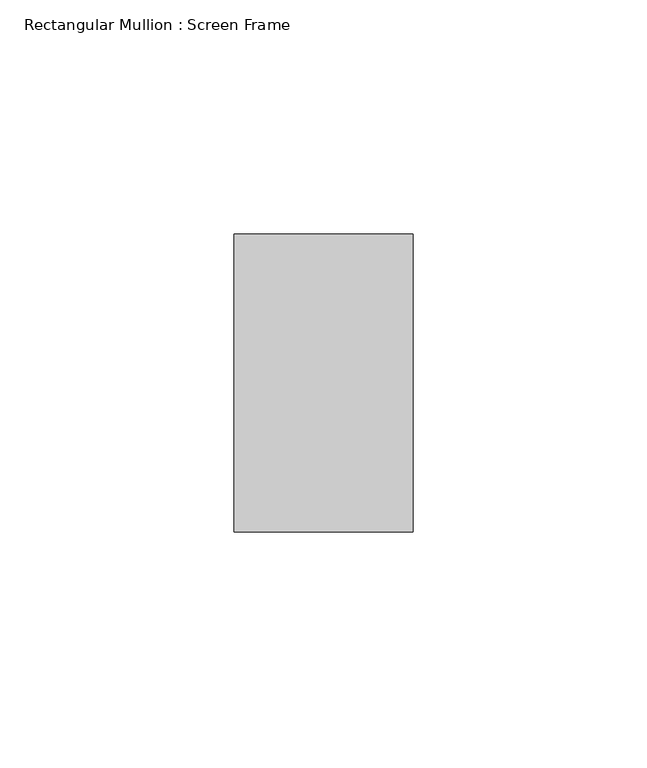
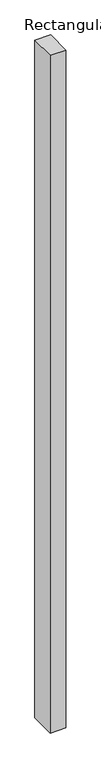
"""IFC4 building model written with IfcOpenShell, lengths in millimetres: member geometry, Rectangular Mullion : Screen Frame."""

import ifcopenshell
import ifcopenshell.guid

model = None  # the IFC model being written
_history = None  # IfcOwnerHistory: only IFC2X3 demands one
_inside = {}  # id of a spatial element -> (the spatial element, [elements in it])
_under = {}  # id of a project, library or spatial element -> (it, [spatial elements below it])
_declared = {}  # id of a project -> (the project, [libraries it declares])
_typed = {}  # id of a type object -> (the type object, [elements of that type])
_made_of = {}  # id of a material, layer set ... -> (it, [elements and type objects made of it])


def new_model(schema):
    """Start an empty IFC model of exactly this schema.

    Asked for "IFC4X3", IfcOpenShell would pick the latest addendum, in which some entities
    have other attributes; the version numbers below select the first issue.
    IFC2X3 requires an IfcOwnerHistory on every rooted entity: one is made here for all.
    """
    global model, _history
    if schema == "IFC4X3":
        model = ifcopenshell.file(schema_version=(4, 3, 0, 0))
    else:
        model = ifcopenshell.file(schema=schema)
    _inside.clear()
    _under.clear()
    _declared.clear()
    _typed.clear()
    _made_of.clear()
    _history = None
    if model.schema == "IFC2X3":
        org = make("IfcOrganization", Name="unknown")
        user = make(
            "IfcPersonAndOrganization",
            ThePerson=make("IfcPerson", FamilyName="unknown"),
            TheOrganization=org,
        )
        app = make(
            "IfcApplication",
            ApplicationDeveloper=org,
            Version="unknown",
            ApplicationFullName="unknown",
            ApplicationIdentifier="unknown",
        )
        _history = make(
            "IfcOwnerHistory",
            OwningUser=user,
            OwningApplication=app,
            ChangeAction="ADDED",
            CreationDate=0,
        )
    return model


def make(cls, **values):
    """One entity of the class cls with the attributes given. An attribute that is None is left unset."""
    return model.create_entity(
        cls, **{name: value for name, value in values.items() if value is not None}
    )


def rooted(cls, **values):
    """An entity with a GlobalId (a new one), such as an element, a storey or a relation."""
    return make(cls, GlobalId=ifcopenshell.guid.new(), OwnerHistory=_history, **values)


def si_unit(unit_type, name, prefix=None):
    """IfcSIUnit, for example si_unit("LENGTHUNIT", "METRE", prefix="MILLI")."""
    return make("IfcSIUnit", UnitType=unit_type, Prefix=prefix, Name=name)


def assignment(units):
    """IfcUnitAssignment: the units of a project."""
    return None if units is None else make("IfcUnitAssignment", Units=units)


def point(xyz):
    """IfcCartesianPoint."""
    return None if xyz is None else make("IfcCartesianPoint", Coordinates=xyz)


def direction(xyz):
    """IfcDirection."""
    return None if xyz is None else make("IfcDirection", DirectionRatios=xyz)


def frame(location, z_axis=None, x_axis=None):
    """IfcAxis2Placement3D, a coordinate frame: its origin and axes. An axis left out is left unset."""
    return make(
        "IfcAxis2Placement3D",
        Location=point(location),
        Axis=direction(z_axis),
        RefDirection=direction(x_axis),
    )


def origin():
    """The frame at (0, 0, 0) with its axes left unset."""
    return frame((0.0, 0.0, 0.0))


def place(relative_to, where):
    """IfcLocalPlacement: puts the frame where relative to a parent placement (None: the world)."""
    return make(
        "IfcLocalPlacement", PlacementRelTo=relative_to, RelativePlacement=where
    )


def context(
    kind, dimensions, precision=None, world=None, true_north=None, identifier=None
):
    """IfcGeometricRepresentationContext, for example the 3D "Model" context."""
    return make(
        "IfcGeometricRepresentationContext",
        ContextIdentifier=identifier,
        ContextType=kind,
        CoordinateSpaceDimension=dimensions,
        Precision=precision,
        WorldCoordinateSystem=world,
        TrueNorth=true_north,
    )


def project(units=None, contexts=None):
    """IfcProject with its units and contexts."""
    return rooted(
        "IfcProject",
        Name="project",
        RepresentationContexts=contexts,
        UnitsInContext=assignment(units),
    )


def spatial(cls, under=None, at=None, **own):
    """A site, building, storey or space (cls), placed at a placement, below another one or the project."""
    s = rooted(cls, ObjectPlacement=at, **own)
    if under is not None:
        _under.setdefault(under.id(), (under, []))[1].append(s)
    return s


def polyline(points):
    """IfcPolyline through the points."""
    return make("IfcPolyline", Points=[point(p) for p in points])


def outline(outer, holes=None, kind="AREA"):
    """IfcArbitraryClosedProfileDef: a profile drawn as a closed curve; with holes, ...WithVoids."""
    if holes is None:
        return make("IfcArbitraryClosedProfileDef", ProfileType=kind, OuterCurve=outer)
    return make(
        "IfcArbitraryProfileDefWithVoids",
        ProfileType=kind,
        OuterCurve=outer,
        InnerCurves=holes,
    )


def extrude(swept, where, along, depth):
    """IfcExtrudedAreaSolid: the profile swept, set in the frame where, extruded along a direction by depth."""
    return make(
        "IfcExtrudedAreaSolid",
        SweptArea=swept,
        Position=where,
        ExtrudedDirection=direction(along),
        Depth=depth,
    )


def shape(context_of_items, identifier, shape_type, items):
    """IfcShapeRepresentation: the items that make up one representation, for example the "Body"."""
    return make(
        "IfcShapeRepresentation",
        ContextOfItems=context_of_items,
        RepresentationIdentifier=identifier,
        RepresentationType=shape_type,
        Items=items,
    )


def source(mapping_origin, context_of_items, identifier, shape_type, items):
    """IfcRepresentationMap: a shape defined once, which mapped items show again and again."""
    return make(
        "IfcRepresentationMap",
        MappingOrigin=mapping_origin,
        MappedRepresentation=shape(context_of_items, identifier, shape_type, items),
    )


def transform(
    local_origin,
    x_axis=None,
    y_axis=None,
    z_axis=None,
    scale=None,
    scale2=None,
    scale3=None,
    uniform=True,
):
    """IfcCartesianTransformationOperator3D, or its non-uniform kind. x_axis, y_axis, z_axis: its Axis1, 2, 3."""
    if uniform:
        return make(
            "IfcCartesianTransformationOperator3D",
            Axis1=direction(x_axis),
            Axis2=direction(y_axis),
            LocalOrigin=point(local_origin),
            Scale=scale,
            Axis3=direction(z_axis),
        )
    return make(
        "IfcCartesianTransformationOperator3DnonUniform",
        Axis1=direction(x_axis),
        Axis2=direction(y_axis),
        LocalOrigin=point(local_origin),
        Scale=scale,
        Axis3=direction(z_axis),
        Scale2=scale2,
        Scale3=scale3,
    )


def mapped(mapping_source, mapping_target):
    """IfcMappedItem: shows the shape of a source again, moved by a transform."""
    return make(
        "IfcMappedItem", MappingSource=mapping_source, MappingTarget=mapping_target
    )


def made_of(thing, what):
    """Note that an element or type object is made of a material, layer set ...; save() writes the relation."""
    if what is not None:
        _made_of.setdefault(what.id(), (what, []))[1].append(thing)
    return thing


def element(
    cls,
    number,
    at=None,
    inside=None,
    cuts=None,
    type_object=None,
    material=None,
    context=None,
    identifier="Body",
    shape_type=None,
    held_by="IfcProductDefinitionShape",
    body=None,
    shapes=None,
    **own,
):
    """One element of the class cls, such as IfcWall. Its Tag is "e" and its number.

    at: its placement. inside: the storey or other place that contains it. cuts: it is an
    opening in that element (IfcRelVoidsElement). A single representation is given by context,
    identifier, shape_type and body (its items); several are given by shapes. held_by: the class
    of the entity that holds the representations. save() writes the other relations.
    """
    e = rooted(cls, Tag="e%d" % number, ObjectPlacement=at, **own)
    if body is not None:
        shapes = [shape(context, identifier, shape_type, body)]
    if shapes is not None:
        e.Representation = make(held_by, Representations=shapes)
    if inside is not None:
        _inside.setdefault(inside.id(), (inside, []))[1].append(e)
    if cuts is not None:
        rooted(
            "IfcRelVoidsElement", RelatingBuildingElement=cuts, RelatedOpeningElement=e
        )
    if type_object is not None:
        _typed.setdefault(type_object.id(), (type_object, []))[1].append(e)
    return made_of(e, material)


def aggregate(whole, parts):
    """IfcRelAggregates: a whole, such as a stair, and the parts it consists of."""
    return rooted("IfcRelAggregates", RelatingObject=whole, RelatedObjects=parts)


def save(model, path):
    """Write the relations noted so far, then the file.

    IfcRelAggregates (storeys below a building ...), IfcRelContainedInSpatialStructure (elements
    in a storey), IfcRelDefinesByType, IfcRelAssociatesMaterial and IfcRelDeclares: one each for
    every whole, place, type object, material and project.
    """
    for whole, parts in _under.values():
        aggregate(whole, parts)
    for where, things in _inside.values():
        rooted(
            "IfcRelContainedInSpatialStructure",
            RelatedElements=things,
            RelatingStructure=where,
        )
    for kind, things in _typed.values():
        rooted("IfcRelDefinesByType", RelatedObjects=things, RelatingType=kind)
    for what, things in _made_of.values():
        rooted("IfcRelAssociatesMaterial", RelatedObjects=things, RelatingMaterial=what)
    for by, libraries in _declared.values():
        rooted("IfcRelDeclares", RelatingContext=by, RelatedDefinitions=libraries)
    model.write(path)


def rectangular_mullion_screen_frame_e9f309df(model_context):
    return source(origin(), model_context, "Body", "SweptSolid", [
        extrude(outline(polyline([(19.05, 31.75), (19.05, -31.75), (-19.05, -31.75), (-19.05, 31.75), (19.05, 31.75)])), frame((0.0, 0.0, -1727.6953), z_axis=(0.0, 0.0, 1.0), x_axis=(1.0, 0.0, 0.0)), (0.0, 0.0, 1.0), 1727.6953),
    ])


if __name__ == "__main__":
    model = new_model("IFC4")
    model_context = context("Model", 3, world=origin())
    ifc_project = project(units=[si_unit("LENGTHUNIT", "METRE", prefix="MILLI")], contexts=[model_context])
    site = spatial("IfcSite", under=ifc_project)
    building = spatial("IfcBuilding", under=site)
    placement = place(None, origin())
    rectangular_mullion_screen_frame_shape = rectangular_mullion_screen_frame_e9f309df(model_context)
    element("IfcMember", 1, ObjectType="Rectangular Mullion : Screen Frame", at=placement, inside=building, context=model_context, shape_type="MappedRepresentation", body=[
        mapped(rectangular_mullion_screen_frame_shape, transform((0.0, 0.0, 0.0), x_axis=(1.0, 0.0, 0.0), y_axis=(0.0, 1.0, 0.0), z_axis=(0.0, 0.0, 1.0))),
    ])
    save(model, "model.ifc")
